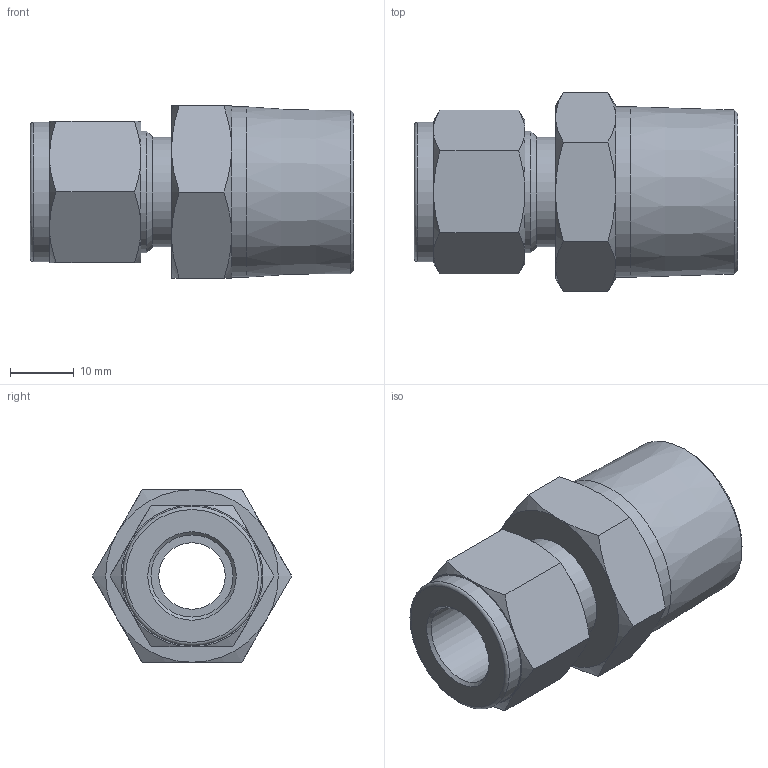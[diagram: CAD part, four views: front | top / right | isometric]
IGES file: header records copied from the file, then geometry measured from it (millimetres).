
Global section: file name: No Iges File Name specified; native system: Autodesk Inventor 2012; preprocessor: AutoDesk Inventor Iges Exporter R2012; author: 硅己绕,, ; organization: 11; date: 20150603.093118; units: millimetre
Bounding box: 50.6 x 31.18 x 27 mm (x, y, z)
Volume: 19242.4 mm3; surface area: 7105.4 mm2
Topology: 1 solids, 1 shells, 56 faces, 114 edges, 66 vertices
Faces by surface type: cone 27, plane 20, revolution 4, cylinder 4, torus 1
Full cylindrical faces by diameter (mm): 17.2 x1, 19.05 x1, 21.8 x1, 26.67 x1
